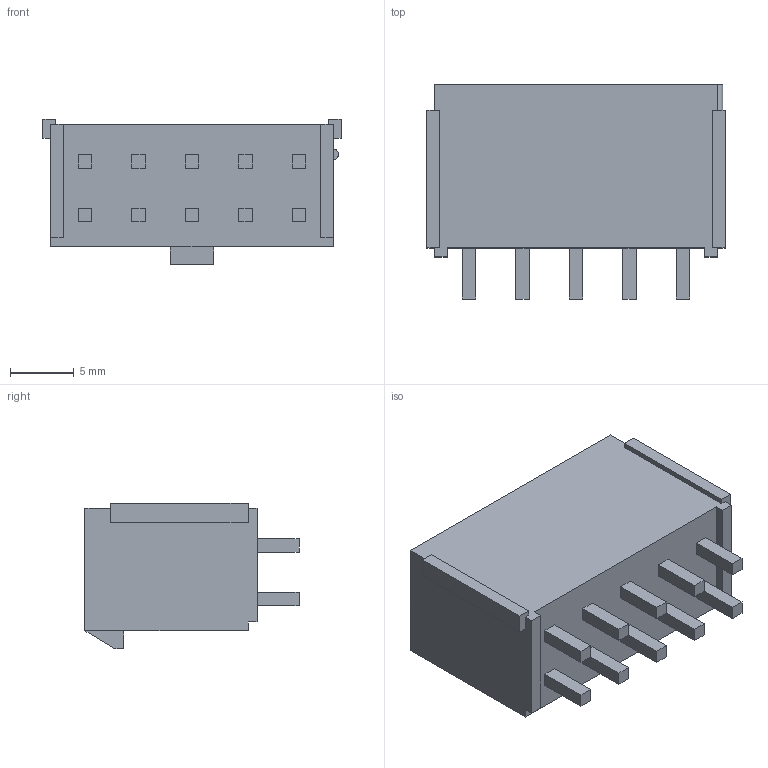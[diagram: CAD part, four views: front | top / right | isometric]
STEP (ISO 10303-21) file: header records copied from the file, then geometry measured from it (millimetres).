
FILE_DESCRIPTION((''),'2;1');
FILE_NAME('874271042','2010-10-19T',('pnb'),(''),'PRO/ENGINEER BY PARAMETRIC TECHNOLOGY CORPORATION, 2003451','PRO/ENGINEER BY PARAMETRIC TECHNOLOGY CORPORATION, 2003451','');
FILE_SCHEMA(('CONFIG_CONTROL_DESIGN'));
Length unit declared in the file: millimetre
Products named in the file (1): 874271042
Bounding box: 23.4 x 16.8 x 11.4 mm (x, y, z)
Volume: 1731.7 mm3; surface area: 2998.9 mm2
Topology: 1 solids, 1 shells, 191 faces, 495 edges, 336 vertices
Faces by surface type: plane 190, cylinder 1
Entity records: 5756 total; most frequent: CARTESIAN_POINT 1004, ORIENTED_EDGE 950, DIRECTION 903, EDGE_CURVE 475, VECTOR 473, LINE 473, VERTEX_POINT 316, EDGE_LOOP 221
